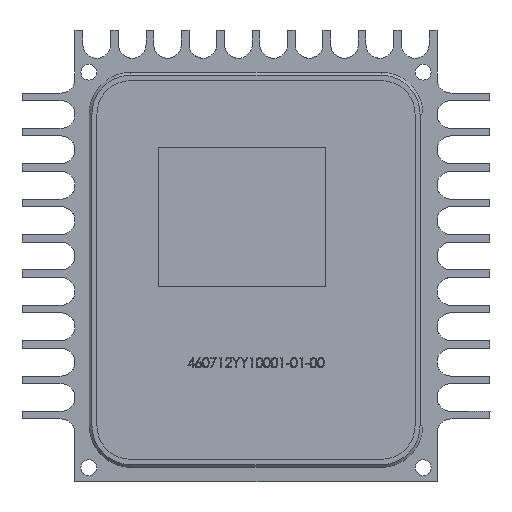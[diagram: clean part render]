
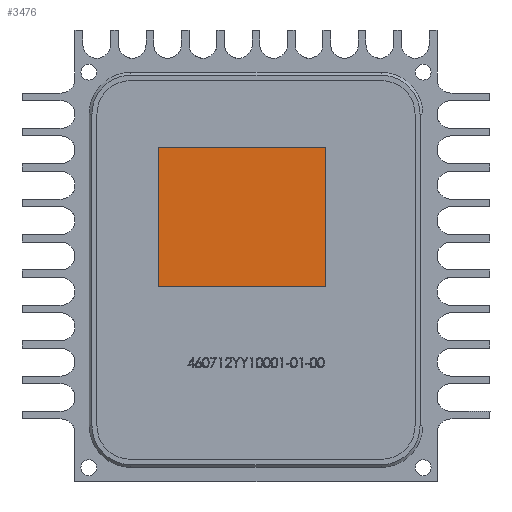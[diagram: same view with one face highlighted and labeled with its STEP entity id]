
A CAD part, front view. The second image highlights one B-rep face of the part: STEP entity #3476.
In plain terms, the highlighted planar face has unit normal (0, -1, 0).
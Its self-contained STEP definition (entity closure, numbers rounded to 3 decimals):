
#381 = ORIENTED_EDGE ( 'NONE', *, *, #2613, .T. ) ;
#617 = CARTESIAN_POINT ( 'NONE',  ( -35., 0.1, 44. ) ) ;
#1249 = DIRECTION ( 'NONE',  ( 0., 0., 1. ) ) ;
#1645 = CARTESIAN_POINT ( 'NONE',  ( 25., 0.1, 44. ) ) ;
#2613 = EDGE_CURVE ( 'NONE', #15351, #9450, #17548, .T. ) ;
#2874 = PLANE ( 'NONE',  #19270 ) ;
#3476 = ADVANCED_FACE ( 'NONE', ( #4693 ), #2874, .F. ) ;
#4693 = FACE_OUTER_BOUND ( 'NONE', #6044, .T. ) ;
#4904 = LINE ( 'NONE', #11604, #9311 ) ;
#6044 = EDGE_LOOP ( 'NONE', ( #381, #12257, #19179, #18396 ) ) ;
#6203 = DIRECTION ( 'NONE',  ( 0., 1., 0. ) ) ;
#7131 = LINE ( 'NONE', #9166, #9149 ) ;
#7160 = VECTOR ( 'NONE', #17333, 1000. ) ;
#8130 = EDGE_CURVE ( 'NONE', #11909, #17638, #7131, .T. ) ;
#9149 = VECTOR ( 'NONE', #20213, 1000. ) ;
#9166 = CARTESIAN_POINT ( 'NONE',  ( 25., 0.1, -6. ) ) ;
#9311 = VECTOR ( 'NONE', #16365, 1000. ) ;
#9450 = VERTEX_POINT ( 'NONE', #11325 ) ;
#9584 = CARTESIAN_POINT ( 'NONE',  ( -35., 0.1, -6. ) ) ;
#11325 = CARTESIAN_POINT ( 'NONE',  ( -35., 0.1, 44. ) ) ;
#11604 = CARTESIAN_POINT ( 'NONE',  ( -35., 0.1, -6. ) ) ;
#11909 = VERTEX_POINT ( 'NONE', #9584 ) ;
#12257 = ORIENTED_EDGE ( 'NONE', *, *, #18673, .T. ) ;
#14717 = EDGE_CURVE ( 'NONE', #17638, #15351, #21308, .T. ) ;
#15351 = VERTEX_POINT ( 'NONE', #19633 ) ;
#16153 = CARTESIAN_POINT ( 'NONE',  ( 0., 0.1, 0. ) ) ;
#16365 = DIRECTION ( 'NONE',  ( 0., 0., -1. ) ) ;
#17333 = DIRECTION ( 'NONE',  ( -1., 0., 0. ) ) ;
#17548 = LINE ( 'NONE', #617, #7160 ) ;
#17638 = VERTEX_POINT ( 'NONE', #20774 ) ;
#17835 = VECTOR ( 'NONE', #20106, 1000. ) ;
#18396 = ORIENTED_EDGE ( 'NONE', *, *, #14717, .T. ) ;
#18673 = EDGE_CURVE ( 'NONE', #9450, #11909, #4904, .T. ) ;
#19179 = ORIENTED_EDGE ( 'NONE', *, *, #8130, .T. ) ;
#19270 = AXIS2_PLACEMENT_3D ( 'NONE', #16153, #6203, #1249 ) ;
#19633 = CARTESIAN_POINT ( 'NONE',  ( 25., 0.1, 44. ) ) ;
#20106 = DIRECTION ( 'NONE',  ( 0., 0., 1. ) ) ;
#20213 = DIRECTION ( 'NONE',  ( 1., 0., 0. ) ) ;
#20774 = CARTESIAN_POINT ( 'NONE',  ( 25., 0.1, -6. ) ) ;
#21308 = LINE ( 'NONE', #1645, #17835 ) ;
